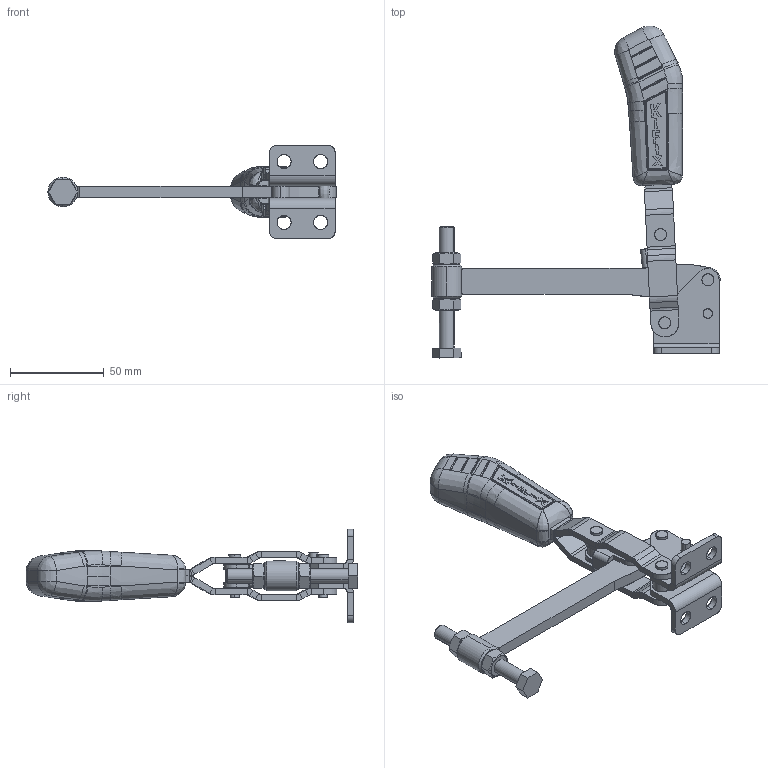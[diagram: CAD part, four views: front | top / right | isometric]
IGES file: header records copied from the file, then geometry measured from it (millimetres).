
Start section: SolidWorks IGES file using analytic representation for surfaces
Global section: file name: C:\Projetos\Grampos\KF-016\KF-016 DS\KF-016 DS.IGS; native system: SolidWorks 2013; preprocessor: SolidWorks 2013; author: Ricardo; date: 140728.115212; units: millimetre
Bounding box: 153.79 x 177.16 x 50 mm (x, y, z)
Surface area: 46027.6 mm2 (no closed solid volume)
Topology: 0 solids, 0 shells, 699 faces, 7501 edges, 7488 vertices
Faces by surface type: bspline 440, revolution 259
